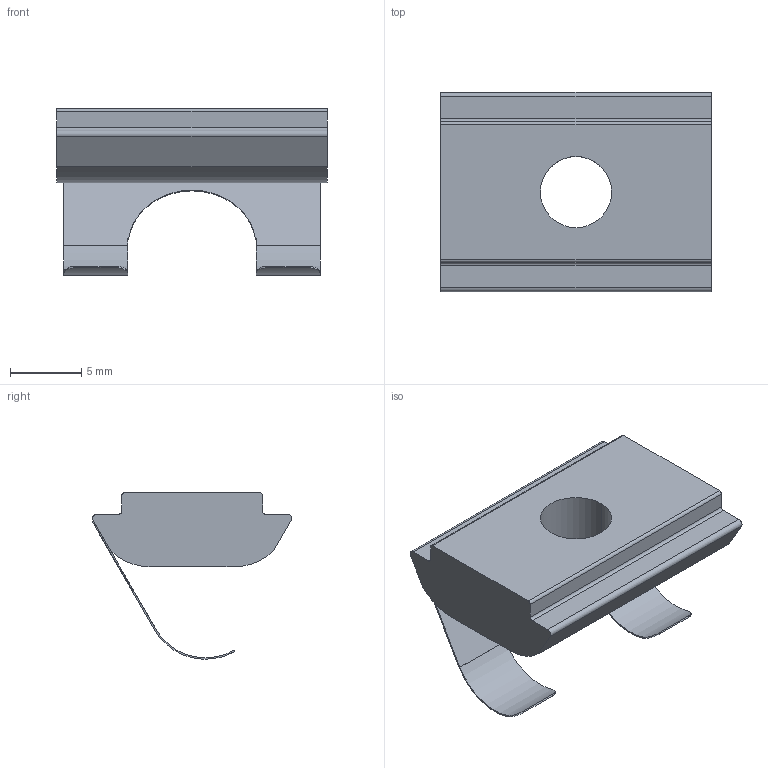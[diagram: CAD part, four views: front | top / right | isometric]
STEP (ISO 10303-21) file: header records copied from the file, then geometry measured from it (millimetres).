
FILE_DESCRIPTION (( 'STEP AP203' ), '1' );
FILE_NAME ('Geotech 0110NSM6STF Nutenstein10 M6 Steg mit Federblech.STEP', '2024-03-05T13:40:31', ( 'Windows-Benutzer' ), ( '' ), 'SwSTEP 2.0', 'SolidWorks 2023', '' );
FILE_SCHEMA (( 'CONFIG_CONTROL_DESIGN' ));
Length unit declared in the file: millimetre
Products named in the file (1): Geotech 0110NSM6STF Nutenstein10 M6 Steg mit Federblech
Bounding box: 19 x 14.02 x 11.7 mm (x, y, z)
Volume: 1037.4 mm3; surface area: 1098.9 mm2
Topology: 1 solids, 1 shells, 43 faces, 123 edges, 82 vertices
Faces by surface type: plane 23, cylinder 20
Entity records: 1537 total; most frequent: CARTESIAN_POINT 331, ORIENTED_EDGE 246, DIRECTION 227, EDGE_CURVE 123, VERTEX_POINT 82, AXIS2_PLACEMENT_3D 78, VECTOR 71, LINE 71
